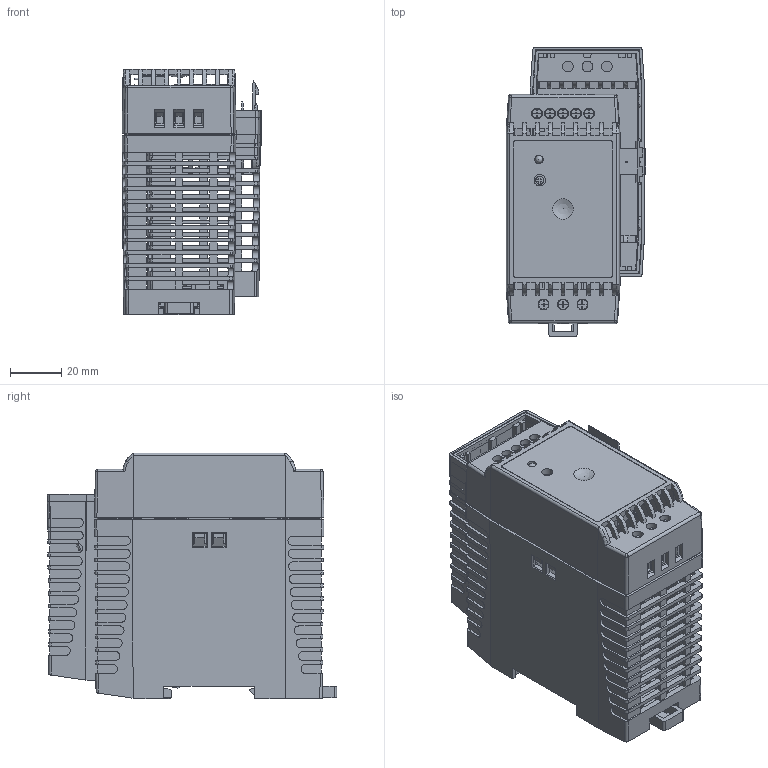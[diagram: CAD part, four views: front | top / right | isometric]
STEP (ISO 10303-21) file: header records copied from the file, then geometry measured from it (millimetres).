
FILE_DESCRIPTION( ( 'Unknown' ), '1' );
FILE_NAME( 'J:/DESBAKUP/3D DATA/TPC/ASSEMBLIES/3D OUTPUT & IMAGES/TPC-REM.stp', 'Unknown', ( 'Unknown' ), ( 'Unknown' ), 'PSStep 13.0', 'Unknown', ' ' );
FILE_SCHEMA( ( 'AUTOMOTIVE_DESIGN { 1 0 10303 214 1 1 1 1 }' ) );
Length unit declared in the file: millimetre
Products named in the file (9): Assem1; 24600293-HOOD; 24300193-LATCH; 23500408_23500406-CONNECTOR; 23500404-CONNECTOR; 23500275-CONNECTOR; 22200006-POT; 21500012-LED; 24600292-MODIFIED REM CHASSIS
Bounding box: 54.63 x 112.86 x 96 mm (x, y, z)
Volume: 140350.1 mm3; surface area: 139013.2 mm2
Topology: 17 solids, 17 shells, 3162 faces, 9852 edges, 6474 vertices
Faces by surface type: plane 2730, cylinder 398, sphere 18, revolution 16
Full cylindrical faces by diameter (mm): 0.51 x6, 1 x8, 2.9 x2, 3.15 x2, 3.4 x2, 3.8 x10, 4 x6, 4.2 x16, 4.4 x2, 4.8 x2, 5.8 x2
Entity records: 65936 total; most frequent: CARTESIAN_POINT 9916, ORIENTED_EDGE 9606, DIRECTION 8320, EDGE_CURVE 4803, LINE 4304, VECTOR 4304, VERTEX_POINT 3174, AXIS2_PLACEMENT_3D 2004
